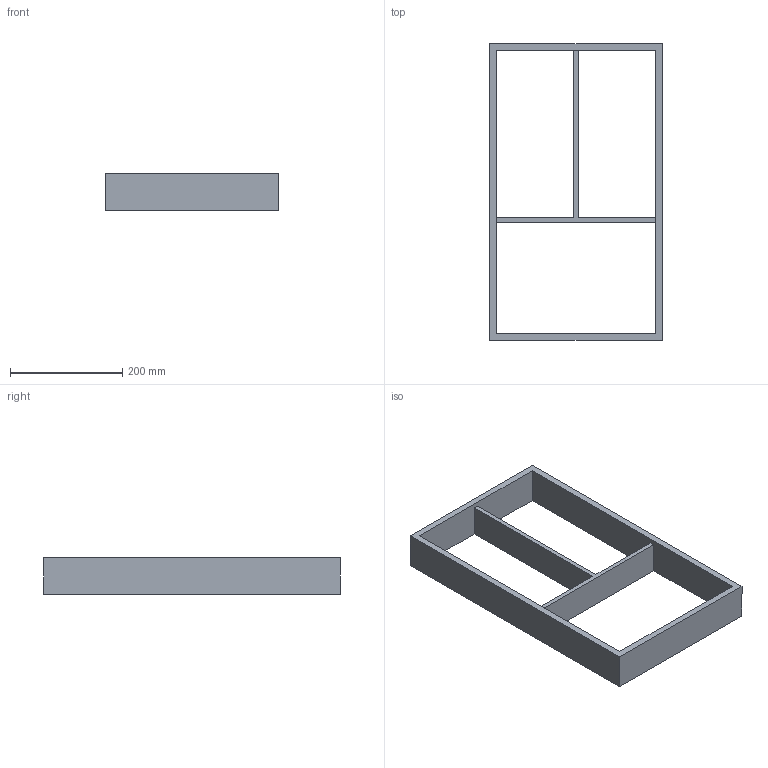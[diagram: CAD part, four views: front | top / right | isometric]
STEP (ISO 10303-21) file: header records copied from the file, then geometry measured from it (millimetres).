
FILE_DESCRIPTION (( 'STEP AP214' ), '1' );
FILE_NAME ('Vario Multi NL550_B400_16 mm_Alu.step', '2010-10-07T06:24:29', ( 'grass' ), ( '' ), 'SwSTEP 2.0', 'SolidWorks 2010', '' );
FILE_SCHEMA (( 'AUTOMOTIVE_DESIGN' ));
Length unit declared in the file: millimetre
Products named in the file (1): Vario Multi NL550_B400_16 mm_Alu
Bounding box: 308 x 529 x 65 mm (x, y, z)
Volume: 1534036.8 mm3; surface area: 324344 mm2
Topology: 1 solids, 1 shells, 16 faces, 48 edges, 32 vertices
Faces by surface type: plane 16
Entity records: 578 total; most frequent: CARTESIAN_POINT 97, ORIENTED_EDGE 96, DIRECTION 82, EDGE_CURVE 48, LINE 48, VECTOR 48, VERTEX_POINT 32, EDGE_LOOP 20
